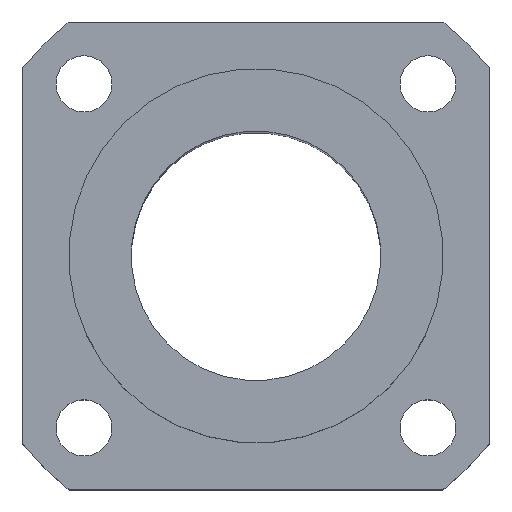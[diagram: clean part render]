
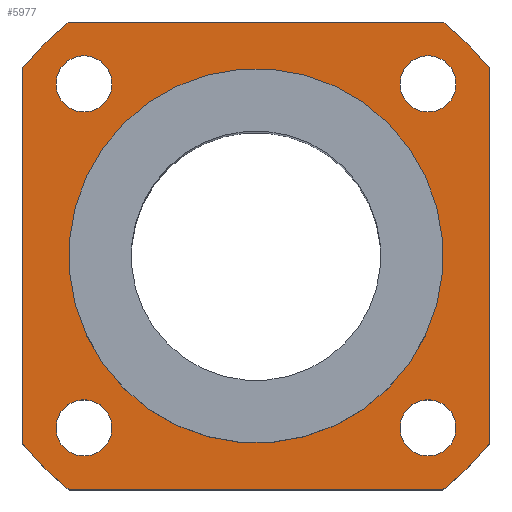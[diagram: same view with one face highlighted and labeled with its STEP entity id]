
A CAD part, top view. The second image highlights one B-rep face of the part: STEP entity #5977.
In plain terms, the highlighted planar face has unit normal (0, 0, 1).
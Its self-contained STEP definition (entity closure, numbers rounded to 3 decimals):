
#107=CIRCLE('',#6348,48.);
#108=CIRCLE('',#6350,48.);
#109=CIRCLE('',#6352,48.);
#110=CIRCLE('',#6354,48.);
#111=CIRCLE('',#6356,4.5);
#112=CIRCLE('',#6357,4.5);
#113=CIRCLE('',#6358,4.5);
#114=CIRCLE('',#6359,4.5);
#115=CIRCLE('',#6360,30.);
#529=ORIENTED_EDGE('',*,*,#2249,.F.);
#530=ORIENTED_EDGE('',*,*,#2250,.F.);
#531=ORIENTED_EDGE('',*,*,#2251,.F.);
#532=ORIENTED_EDGE('',*,*,#2252,.F.);
#533=ORIENTED_EDGE('',*,*,#2253,.T.);
#534=ORIENTED_EDGE('',*,*,#2241,.T.);
#535=ORIENTED_EDGE('',*,*,#2254,.T.);
#536=ORIENTED_EDGE('',*,*,#2237,.T.);
#537=ORIENTED_EDGE('',*,*,#2255,.T.);
#538=ORIENTED_EDGE('',*,*,#2247,.T.);
#539=ORIENTED_EDGE('',*,*,#2256,.T.);
#540=ORIENTED_EDGE('',*,*,#2244,.T.);
#541=ORIENTED_EDGE('',*,*,#2257,.T.);
#2237=EDGE_CURVE('',#3099,#3100,#107,.T.);
#2241=EDGE_CURVE('',#3102,#3101,#108,.T.);
#2244=EDGE_CURVE('',#3104,#3103,#109,.T.);
#2247=EDGE_CURVE('',#3106,#3105,#110,.T.);
#2249=EDGE_CURVE('',#3107,#3107,#111,.T.);
#2250=EDGE_CURVE('',#3108,#3108,#112,.T.);
#2251=EDGE_CURVE('',#3109,#3109,#113,.T.);
#2252=EDGE_CURVE('',#3110,#3110,#114,.T.);
#2253=EDGE_CURVE('',#3111,#3111,#115,.F.);
#2254=EDGE_CURVE('',#3101,#3099,#3633,.T.);
#2255=EDGE_CURVE('',#3100,#3106,#3634,.T.);
#2256=EDGE_CURVE('',#3105,#3104,#3635,.T.);
#2257=EDGE_CURVE('',#3103,#3102,#3636,.T.);
#3099=VERTEX_POINT('',#9391);
#3100=VERTEX_POINT('',#9392);
#3101=VERTEX_POINT('',#9397);
#3102=VERTEX_POINT('',#9399);
#3103=VERTEX_POINT('',#9403);
#3104=VERTEX_POINT('',#9405);
#3105=VERTEX_POINT('',#9409);
#3106=VERTEX_POINT('',#9411);
#3107=VERTEX_POINT('',#9415);
#3108=VERTEX_POINT('',#9417);
#3109=VERTEX_POINT('',#9419);
#3110=VERTEX_POINT('',#9421);
#3111=VERTEX_POINT('',#9423);
#3633=LINE('',#9424,#4343);
#3634=LINE('',#9425,#4344);
#3635=LINE('',#9426,#4345);
#3636=LINE('',#9427,#4346);
#4343=VECTOR('',#6929,1000.);
#4344=VECTOR('',#6930,1000.);
#4345=VECTOR('',#6931,1000.);
#4346=VECTOR('',#6932,1000.);
#4887=EDGE_LOOP('',(#529));
#4888=EDGE_LOOP('',(#530));
#4889=EDGE_LOOP('',(#531));
#4890=EDGE_LOOP('',(#532));
#4891=EDGE_LOOP('',(#533));
#4892=EDGE_LOOP('',(#534,#535,#536,#537,#538,#539,#540,#541));
#5317=FACE_BOUND('',#4887,.T.);
#5318=FACE_BOUND('',#4888,.T.);
#5319=FACE_BOUND('',#4889,.T.);
#5320=FACE_BOUND('',#4890,.T.);
#5321=FACE_BOUND('',#4891,.T.);
#5322=FACE_BOUND('',#4892,.T.);
#5699=PLANE('',#6355);
#5977=ADVANCED_FACE('',(#5317,#5318,#5319,#5320,#5321,#5322),#5699,.T.);
#6348=AXIS2_PLACEMENT_3D('',#9390,#6895,#6896);
#6350=AXIS2_PLACEMENT_3D('',#9398,#6902,#6903);
#6352=AXIS2_PLACEMENT_3D('',#9404,#6908,#6909);
#6354=AXIS2_PLACEMENT_3D('',#9410,#6914,#6915);
#6355=AXIS2_PLACEMENT_3D('',#9413,#6917,#6918);
#6356=AXIS2_PLACEMENT_3D('',#9414,#6919,#6920);
#6357=AXIS2_PLACEMENT_3D('',#9416,#6921,#6922);
#6358=AXIS2_PLACEMENT_3D('',#9418,#6923,#6924);
#6359=AXIS2_PLACEMENT_3D('',#9420,#6925,#6926);
#6360=AXIS2_PLACEMENT_3D('',#9422,#6927,#6928);
#6895=DIRECTION('',(0.,0.,1.));
#6896=DIRECTION('',(0.707,-0.707,0.));
#6902=DIRECTION('',(0.,0.,1.));
#6903=DIRECTION('',(0.707,-0.707,0.));
#6908=DIRECTION('',(0.,0.,1.));
#6909=DIRECTION('',(0.707,-0.707,0.));
#6914=DIRECTION('',(0.,0.,1.));
#6915=DIRECTION('',(0.707,-0.707,0.));
#6917=DIRECTION('',(0.,0.,1.));
#6918=DIRECTION('',(0.707,-0.707,0.));
#6919=DIRECTION('',(0.,0.,1.));
#6920=DIRECTION('',(0.707,-0.707,0.));
#6921=DIRECTION('',(0.,0.,1.));
#6922=DIRECTION('',(0.707,-0.707,0.));
#6923=DIRECTION('',(0.,0.,1.));
#6924=DIRECTION('',(0.707,-0.707,0.));
#6925=DIRECTION('',(0.,0.,1.));
#6926=DIRECTION('',(0.707,-0.707,0.));
#6927=DIRECTION('',(0.,0.,1.));
#6928=DIRECTION('',(0.707,-0.707,0.));
#6929=DIRECTION('',(0.,-1.,0.));
#6930=DIRECTION('',(1.,0.,0.));
#6931=DIRECTION('',(0.,1.,0.));
#6932=DIRECTION('',(-1.,0.,0.));
#9390=CARTESIAN_POINT('',(0.,0.,0.));
#9391=CARTESIAN_POINT('',(-37.5,-29.962,0.));
#9392=CARTESIAN_POINT('',(-29.962,-37.5,0.));
#9397=CARTESIAN_POINT('',(-37.5,29.962,0.));
#9398=CARTESIAN_POINT('',(0.,0.,0.));
#9399=CARTESIAN_POINT('',(-29.962,37.5,0.));
#9403=CARTESIAN_POINT('',(29.962,37.5,0.));
#9404=CARTESIAN_POINT('',(0.,0.,0.));
#9405=CARTESIAN_POINT('',(37.5,29.962,0.));
#9409=CARTESIAN_POINT('',(37.5,-29.962,0.));
#9410=CARTESIAN_POINT('',(0.,0.,0.));
#9411=CARTESIAN_POINT('',(29.962,-37.5,0.));
#9413=CARTESIAN_POINT('',(0.,0.,0.));
#9414=CARTESIAN_POINT('',(27.577,27.577,0.));
#9415=CARTESIAN_POINT('',(30.759,24.395,0.));
#9416=CARTESIAN_POINT('',(-27.577,27.577,0.));
#9417=CARTESIAN_POINT('',(-24.395,24.395,0.));
#9418=CARTESIAN_POINT('',(-27.577,-27.577,0.));
#9419=CARTESIAN_POINT('',(-24.395,-30.759,0.));
#9420=CARTESIAN_POINT('',(27.577,-27.577,0.));
#9421=CARTESIAN_POINT('',(30.759,-30.759,0.));
#9422=CARTESIAN_POINT('',(0.,0.,0.));
#9423=CARTESIAN_POINT('',(21.213,-21.213,0.));
#9424=CARTESIAN_POINT('',(-37.5,0.,0.));
#9425=CARTESIAN_POINT('',(0.,-37.5,0.));
#9426=CARTESIAN_POINT('',(37.5,0.,0.));
#9427=CARTESIAN_POINT('',(0.,37.5,0.));
